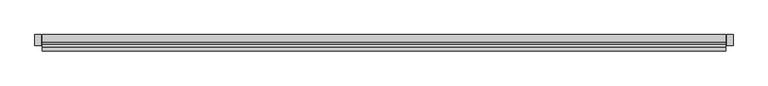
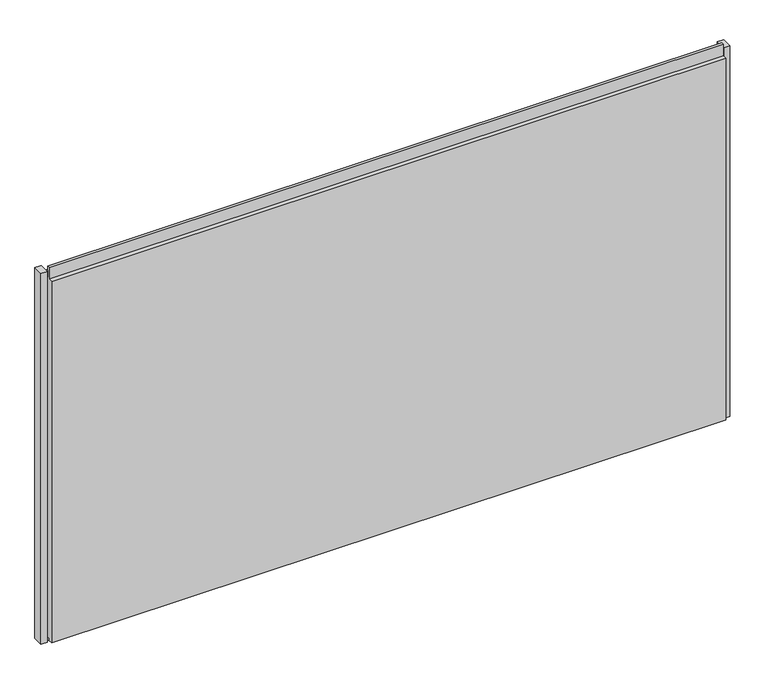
"""IFC4 building model written with IfcOpenShell, lengths in millimetres: plate geometry, Trimo_Qbiss Screen_Normal Panel-HORIZONTAL : HR - B-F."""

from ifc_helpers import new_model, si_unit, frame, origin, place, context, project, spatial, polyline, outline, extrude, source, transform, mapped, element, save


def plate_a0341565(model_context):
    return source(origin(), model_context, "Body", "SweptSolid", [
        extrude(outline(polyline([(-1034.25, 67.8978162), (-1053.25, 67.8978162), (-1053.25, 100.0), (-1034.25, 100.0), (-1034.25, 67.8978162)])), frame((0.0, 0.0, -1.0), z_axis=(0.0, 0.0, 1.0), x_axis=(1.0, 0.0, 0.0)), (0.0, 0.0, 1.0), 1200.0),
        extrude(outline(polyline([(1053.25, 67.8978162), (1034.25, 67.8978162), (1034.25, 100.0), (1053.25, 100.0), (1053.25, 67.8978162)])), frame((0.0, 0.0, -1.0), z_axis=(0.0, 0.0, 1.0), x_axis=(1.0, 0.0, 0.0)), (0.0, 0.0, 1.0), 1200.0),
        extrude(outline(polyline([(1031.25, 76.0), (1031.25, 71.0), (-1031.25, 71.0), (-1031.25, 76.0), (1031.25, 76.0)])), frame((0.0, 0.0, 1178.0), z_axis=(0.0, 0.0, 1.0), x_axis=(1.0, 0.0, 0.0)), (0.0, 0.0, 1.0), 21.0),
        extrude(outline(polyline([(71.0, 1177.0), (100.0, 1177.0), (100.0, 0.0), (72.0, 0.0), (72.0, 15.5), (62.0, 15.5), (62.0, 7.0), (50.0, 7.0), (50.0, 1177.0), (63.0, 1177.0), (63.0, 1214.5), (71.0, 1214.5), (71.0, 1177.0)])), frame((-1031.25, 0.0, 0.0), z_axis=(1.0, 0.0, 0.0), x_axis=(0.0, 1.0, 0.0)), (0.0, 0.0, 1.0), 2062.5),
    ])


if __name__ == "__main__":
    model = new_model("IFC4")
    model_context = context("Model", 3, world=origin())
    ifc_project = project(units=[si_unit("LENGTHUNIT", "METRE", prefix="MILLI")], contexts=[model_context])
    site = spatial("IfcSite", under=ifc_project)
    building = spatial("IfcBuilding", under=site)
    placement = place(None, origin())
    plate_shape = plate_a0341565(model_context)
    element("IfcPlate", 1, ObjectType="Trimo_Qbiss Screen_Normal Panel-HORIZONTAL : HR - B-F", at=placement, inside=building, context=model_context, shape_type="MappedRepresentation", body=[
        mapped(plate_shape, transform((0.0, 0.0, 0.0), x_axis=(1.0, 0.0, 0.0), y_axis=(0.0, 1.0, 0.0), z_axis=(0.0, 0.0, 1.0))),
    ])
    save(model, "model.ifc")
